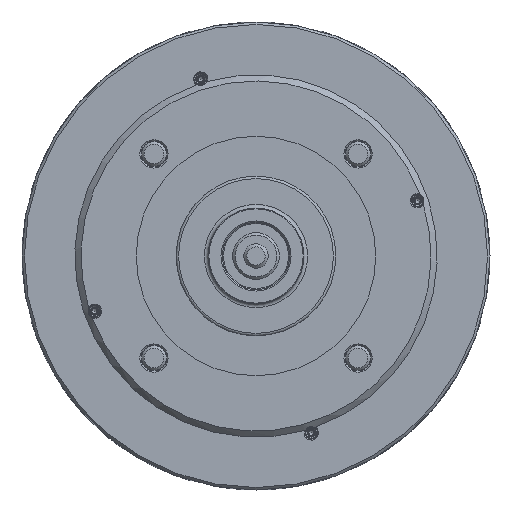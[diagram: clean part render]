
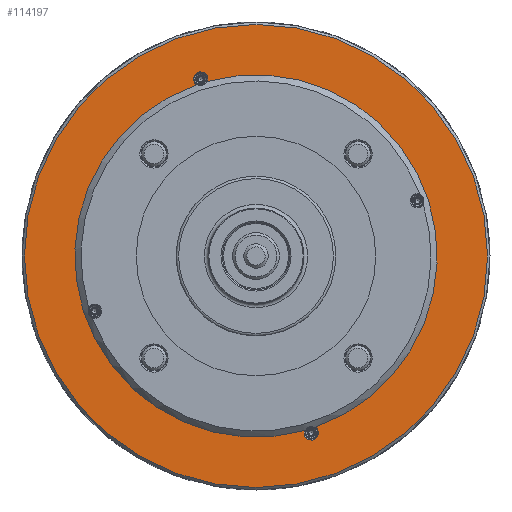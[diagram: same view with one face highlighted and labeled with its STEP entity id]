
A CAD part, left-side view. The second image highlights one B-rep face of the part: STEP entity #114197.
In plain terms, the highlighted planar face has unit normal (-1, 0, 0).
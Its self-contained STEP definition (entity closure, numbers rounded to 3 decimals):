
#154 = ORIENTED_EDGE ( 'NONE', *, *, #84697, .T. ) ;
#846 = DIRECTION ( 'NONE',  ( 0., 0., -1. ) ) ;
#974 = DIRECTION ( 'NONE',  ( 0., 0., -1. ) ) ;
#1747 = AXIS2_PLACEMENT_3D ( 'NONE', #106976, #58826, #97512 ) ;
#8243 = ORIENTED_EDGE ( 'NONE', *, *, #64759, .T. ) ;
#10112 = CARTESIAN_POINT ( 'NONE',  ( -130., 39.401, 142.14 ) ) ;
#10356 = FACE_BOUND ( 'NONE', #110047, .T. ) ;
#10685 = VERTEX_POINT ( 'NONE', #38661 ) ;
#13379 = CARTESIAN_POINT ( 'NONE',  ( -130., 0., 0. ) ) ;
#13531 = CARTESIAN_POINT ( 'NONE',  ( -130., 0., -188.5 ) ) ;
#23092 = ORIENTED_EDGE ( 'NONE', *, *, #59858, .T. ) ;
#23098 = VERTEX_POINT ( 'NONE', #13531 ) ;
#25901 = DIRECTION ( 'NONE',  ( 0., 0., -1. ) ) ;
#26738 = DIRECTION ( 'NONE',  ( 1., 0., 0. ) ) ;
#36751 = ORIENTED_EDGE ( 'NONE', *, *, #78955, .F. ) ;
#38661 = CARTESIAN_POINT ( 'NONE',  ( -130., -48.544, -139.283 ) ) ;
#43528 = EDGE_CURVE ( 'NONE', #117571, #75548, #78717, .T. ) ;
#45615 = ORIENTED_EDGE ( 'NONE', *, *, #43528, .T. ) ;
#45791 = CIRCLE ( 'NONE', #51875, 5.9 ) ;
#47202 = DIRECTION ( 'NONE',  ( 1., 0., 0. ) ) ;
#48435 = CARTESIAN_POINT ( 'NONE',  ( -130., -147.5, 0. ) ) ;
#48905 = DIRECTION ( 'NONE',  ( 0., 0., -1. ) ) ;
#49938 = CARTESIAN_POINT ( 'NONE',  ( -130., -39.401, -142.14 ) ) ;
#51875 = AXIS2_PLACEMENT_3D ( 'NONE', #53448, #26738, #65419 ) ;
#53448 = CARTESIAN_POINT ( 'NONE',  ( -130., -45., -144. ) ) ;
#58826 = DIRECTION ( 'NONE',  ( 1., 0., 0. ) ) ;
#59858 = EDGE_CURVE ( 'NONE', #10685, #77349, #45791, .T. ) ;
#64759 = EDGE_CURVE ( 'NONE', #77349, #117571, #99225, .T. ) ;
#65419 = DIRECTION ( 'NONE',  ( 0., 0., -1. ) ) ;
#65753 = AXIS2_PLACEMENT_3D ( 'NONE', #48435, #47202, #846 ) ;
#74637 = CIRCLE ( 'NONE', #90855, 147.5 ) ;
#75548 = VERTEX_POINT ( 'NONE', #10112 ) ;
#77349 = VERTEX_POINT ( 'NONE', #49938 ) ;
#78648 = CARTESIAN_POINT ( 'NONE',  ( -130., 0., 0. ) ) ;
#78717 = CIRCLE ( 'NONE', #1747, 5.9 ) ;
#78955 = EDGE_CURVE ( 'NONE', #23098, #23098, #97984, .T. ) ;
#84697 = EDGE_CURVE ( 'NONE', #75548, #10685, #74637, .T. ) ;
#87755 = PLANE ( 'NONE',  #65753 ) ;
#87886 = DIRECTION ( 'NONE',  ( 1., 0., 0. ) ) ;
#89437 = DIRECTION ( 'NONE',  ( 1., 0., 0. ) ) ;
#90855 = AXIS2_PLACEMENT_3D ( 'NONE', #78648, #89437, #48905 ) ;
#91143 = AXIS2_PLACEMENT_3D ( 'NONE', #13379, #93784, #25901 ) ;
#93784 = DIRECTION ( 'NONE',  ( 1., 0., 0. ) ) ;
#97352 = EDGE_LOOP ( 'NONE', ( #36751 ) ) ;
#97512 = DIRECTION ( 'NONE',  ( 0., 0., -1. ) ) ;
#97984 = CIRCLE ( 'NONE', #114151, 188.5 ) ;
#99225 = CIRCLE ( 'NONE', #91143, 147.5 ) ;
#106976 = CARTESIAN_POINT ( 'NONE',  ( -130., 45., 144. ) ) ;
#110047 = EDGE_LOOP ( 'NONE', ( #154, #23092, #8243, #45615 ) ) ;
#114151 = AXIS2_PLACEMENT_3D ( 'NONE', #119518, #87886, #974 ) ;
#114197 = ADVANCED_FACE ( 'NONE', ( #124545, #10356 ), #87755, .F. ) ;
#117571 = VERTEX_POINT ( 'NONE', #120538 ) ;
#119518 = CARTESIAN_POINT ( 'NONE',  ( -130., 0., 0. ) ) ;
#120538 = CARTESIAN_POINT ( 'NONE',  ( -130., 48.544, 139.283 ) ) ;
#124545 = FACE_OUTER_BOUND ( 'NONE', #97352, .T. ) ;
